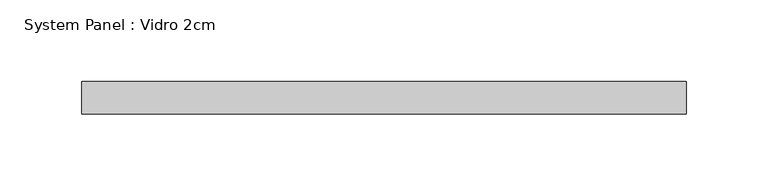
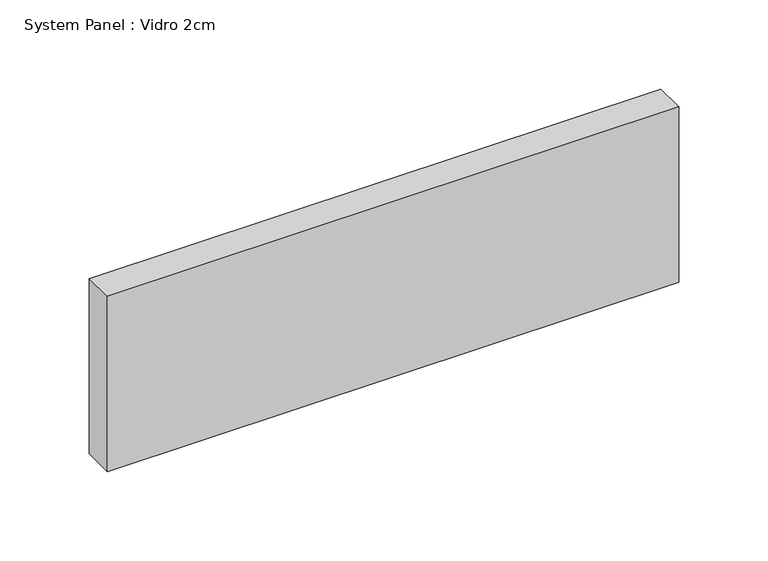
"""IFC4 building model written with IfcOpenShell, lengths in millimetres: plate geometry, System Panel : Vidro 2cm."""

from ifc_helpers import new_model, si_unit, origin, origin_with_axes, place, context, project, spatial, polyline, outline, extrude, source, transform, mapped, element, save


def system_panel_vidro_2cm_fc770f58(model_context):
    return source(origin(), model_context, "Body", "SweptSolid", [
        extrude(outline(polyline([(184.9999998, -20.0), (-184.9999998, -20.0), (-184.9999998, 0.0), (184.9999998, 0.0), (184.9999998, -20.0)])), origin_with_axes(), (0.0, 0.0, 1.0), 120.0),
    ])


if __name__ == "__main__":
    model = new_model("IFC4")
    model_context = context("Model", 3, world=origin())
    ifc_project = project(units=[si_unit("LENGTHUNIT", "METRE", prefix="MILLI")], contexts=[model_context])
    site = spatial("IfcSite", under=ifc_project)
    building = spatial("IfcBuilding", under=site)
    placement = place(None, origin())
    system_panel_vidro_2cm_shape = system_panel_vidro_2cm_fc770f58(model_context)
    element("IfcPlate", 1, ObjectType="System Panel : Vidro 2cm", at=placement, inside=building, context=model_context, shape_type="MappedRepresentation", body=[
        mapped(system_panel_vidro_2cm_shape, transform((0.0, 0.0, 0.0), x_axis=(1.0, 0.0, 0.0), y_axis=(0.0, 1.0, 0.0), z_axis=(0.0, 0.0, 1.0))),
    ])
    save(model, "model.ifc")
